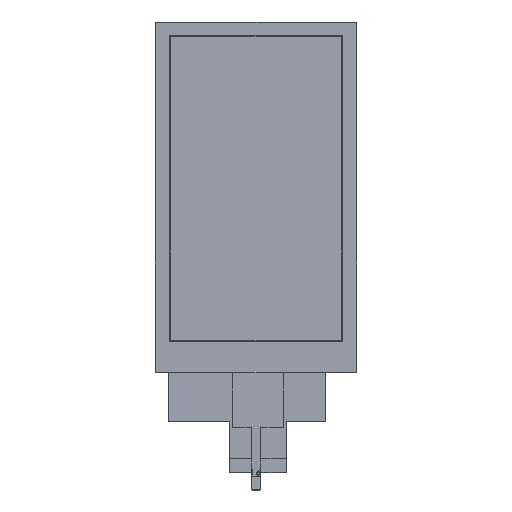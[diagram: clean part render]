
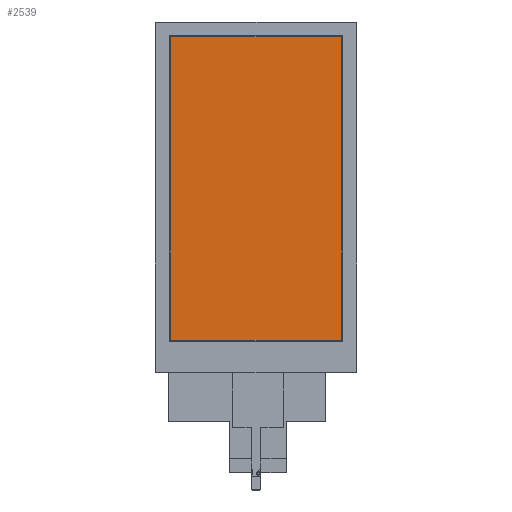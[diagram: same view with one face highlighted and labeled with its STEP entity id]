
A CAD part, top view. The second image highlights one B-rep face of the part: STEP entity #2539.
In plain terms, the highlighted planar face has unit normal (0, 0, 1).
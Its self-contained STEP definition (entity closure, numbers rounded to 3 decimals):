
#33 = CARTESIAN_POINT ( 'NONE',  ( 0., 0., 3.45 ) ) ;
#809 = DIRECTION ( 'NONE',  ( 0., 0., 1. ) ) ;
#1316 = CARTESIAN_POINT ( 'NONE',  ( 2., -1.78, 3.45 ) ) ;
#1519 = VECTOR ( 'NONE', #7476, 1000. ) ;
#2362 = ORIENTED_EDGE ( 'NONE', *, *, #10299, .F. ) ;
#2539 = ADVANCED_FACE ( 'NONE', ( #5850 ), #11170, .T. ) ;
#3264 = DIRECTION ( 'NONE',  ( 0., -1., 0. ) ) ;
#4749 = CARTESIAN_POINT ( 'NONE',  ( 64.1, -1.78, 3.45 ) ) ;
#4920 = EDGE_CURVE ( 'NONE', #6252, #7274, #13721, .T. ) ;
#4958 = VERTEX_POINT ( 'NONE', #1316 ) ;
#5025 = CARTESIAN_POINT ( 'NONE',  ( 2., 0., 3.45 ) ) ;
#5062 = EDGE_LOOP ( 'NONE', ( #16366, #6161, #2362, #9472 ) ) ;
#5112 = LINE ( 'NONE', #5025, #11939 ) ;
#5850 = FACE_OUTER_BOUND ( 'NONE', #5062, .T. ) ;
#5939 = DIRECTION ( 'NONE',  ( 1., 0., 0. ) ) ;
#6161 = ORIENTED_EDGE ( 'NONE', *, *, #4920, .F. ) ;
#6252 = VERTEX_POINT ( 'NONE', #7625 ) ;
#6291 = AXIS2_PLACEMENT_3D ( 'NONE', #33, #809, #5939 ) ;
#7274 = VERTEX_POINT ( 'NONE', #13373 ) ;
#7476 = DIRECTION ( 'NONE',  ( -1., 0., 0. ) ) ;
#7625 = CARTESIAN_POINT ( 'NONE',  ( 64.1, -112.15, 3.45 ) ) ;
#8631 = LINE ( 'NONE', #9897, #16220 ) ;
#8680 = EDGE_CURVE ( 'NONE', #7274, #4958, #5112, .T. ) ;
#8749 = DIRECTION ( 'NONE',  ( 0., 1., 0. ) ) ;
#8935 = VERTEX_POINT ( 'NONE', #4749 ) ;
#9472 = ORIENTED_EDGE ( 'NONE', *, *, #14561, .F. ) ;
#9897 = CARTESIAN_POINT ( 'NONE',  ( 64.1, 0., 3.45 ) ) ;
#9984 = DIRECTION ( 'NONE',  ( 1., 0., 0. ) ) ;
#10299 = EDGE_CURVE ( 'NONE', #8935, #6252, #8631, .T. ) ;
#11170 = PLANE ( 'NONE',  #6291 ) ;
#11807 = CARTESIAN_POINT ( 'NONE',  ( 0., -1.78, 3.45 ) ) ;
#11939 = VECTOR ( 'NONE', #8749, 1000. ) ;
#13002 = LINE ( 'NONE', #11807, #14524 ) ;
#13373 = CARTESIAN_POINT ( 'NONE',  ( 2., -112.15, 3.45 ) ) ;
#13721 = LINE ( 'NONE', #15000, #1519 ) ;
#14524 = VECTOR ( 'NONE', #9984, 1000. ) ;
#14561 = EDGE_CURVE ( 'NONE', #4958, #8935, #13002, .T. ) ;
#15000 = CARTESIAN_POINT ( 'NONE',  ( 0., -112.15, 3.45 ) ) ;
#16220 = VECTOR ( 'NONE', #3264, 1000. ) ;
#16366 = ORIENTED_EDGE ( 'NONE', *, *, #8680, .F. ) ;
